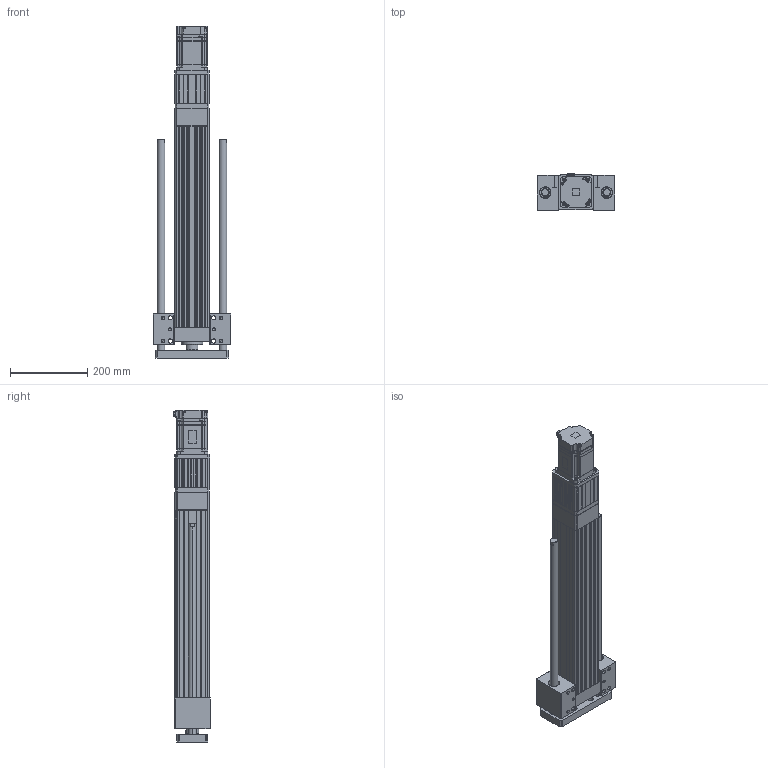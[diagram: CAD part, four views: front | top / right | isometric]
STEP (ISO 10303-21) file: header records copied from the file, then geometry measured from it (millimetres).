
FILE_DESCRIPTION (( 'STEP AP203' ), '1' );
FILE_NAME ('ANS090R-HS400-05(10)(20)-W75.STEP', '2019-03-02T09:25:49', ( 'user' ), ( '' ), 'SwSTEP 2.0', 'SolidWorks 2013', '' );
FILE_SCHEMA (( 'CONFIG_CONTROL_DESIGN' ));
Length unit declared in the file: millimetre
Products named in the file (4): ANS090R HS400 VER2; SGMJV_08A_A21; ANS090 ROD ST400-H; ANS090R-HS400-05(10)(20)-W75
Assembly tree (3 placements, depth 2):
  ANS090R-HS400-05(10)(20)-W75
    ANS090R HS400 VER2
    SGMJV_08A_A21
    ANS090 ROD ST400-H
Bounding box: 200 x 95.8 x 860.1 mm (x, y, z)
Volume: 4992594.5 mm3; surface area: 847831.3 mm2
Topology: 3 solids, 3 shells, 1600 faces, 4288 edges, 2780 vertices
Faces by surface type: plane 982, cylinder 486, cone 128, bspline 4
Entity records: 50298 total; most frequent: CARTESIAN_POINT 9440, ORIENTED_EDGE 8528, DIRECTION 8312, EDGE_CURVE 4264, LINE 3080, VECTOR 3080, VERTEX_POINT 2780, AXIS2_PLACEMENT_3D 2616
